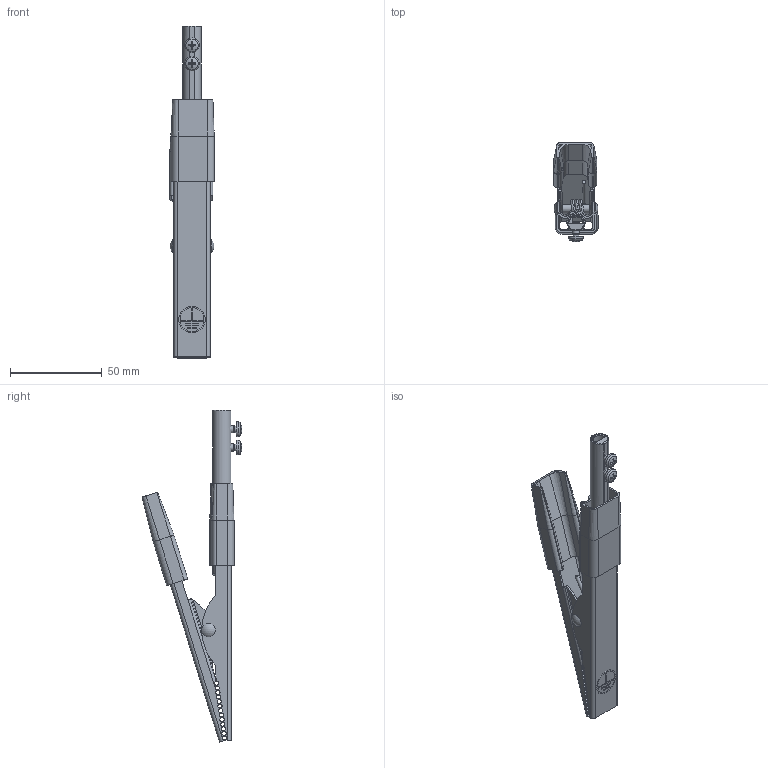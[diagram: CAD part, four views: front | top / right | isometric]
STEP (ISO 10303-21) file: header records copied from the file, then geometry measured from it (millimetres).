
FILE_DESCRIPTION(/* description */ (''),/* implementation_level */ '2;1');
FILE_NAME(/* name */ 'PE Crocodile.stp',/* time_stamp */ '2025-03-20T14:26:33+05:00',/* author */ ('Максим'),/* organization */ (''),/* preprocessor_version */ 'ST-DEVELOPER v20',/* originating_system */ 'Autodesk Inventor 2025',/* authorisation */ '');
FILE_SCHEMA (('AUTOMOTIVE_DESIGN { 1 0 10303 214 3 1 1 }'));
Length unit declared in the file: millimetre
Products named in the file (1): PE Crocodile
Bounding box: 24.2 x 54.36 x 180.96 mm (x, y, z)
Volume: 21055.8 mm3; surface area: 35676.1 mm2
Topology: 8 solids, 8 shells, 470 faces, 1253 edges, 803 vertices
Faces by surface type: plane 225, cylinder 154, cone 62, torus 17, bspline 8, sphere 4
Full cylindrical faces by diameter (mm): 2 x2, 3.242 x2, 3.621 x2, 4 x2, 4.6 x1, 5 x4, 6.01 x3, 10 x1, 13.05 x2, 14.4 x2
Entity records: 16782 total; most frequent: CARTESIAN_POINT 4495, ORIENTED_EDGE 2490, DIRECTION 2442, EDGE_CURVE 1245, AXIS2_PLACEMENT_3D 867, VERTEX_POINT 803, LINE 708, VECTOR 708
